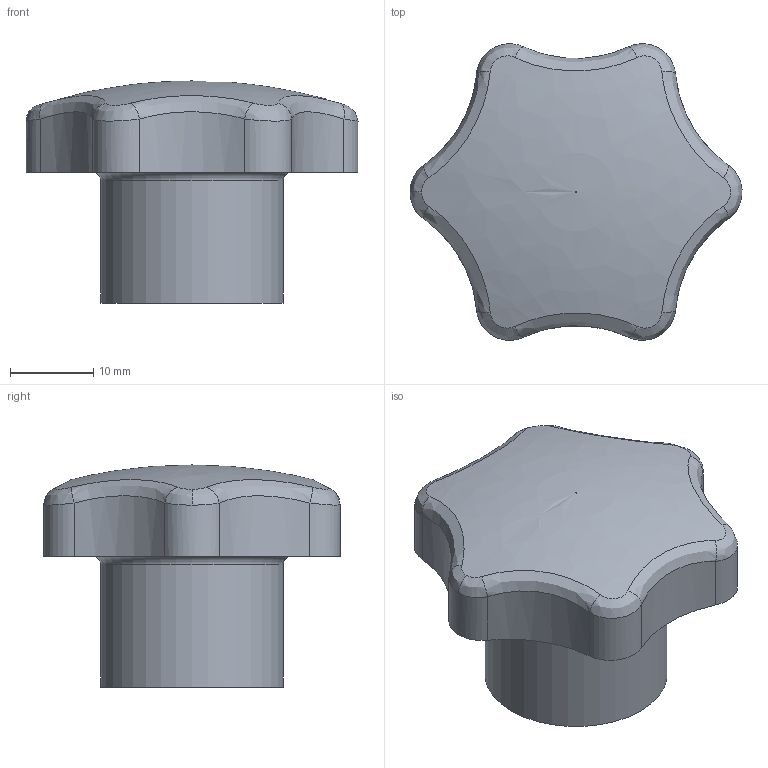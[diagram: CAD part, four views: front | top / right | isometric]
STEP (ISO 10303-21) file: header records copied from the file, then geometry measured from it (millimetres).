
FILE_DESCRIPTION( ('This file contains a STEP AP42 implementation' ,'as created by ZW3D STEP Interface translator.') ,'2;1' );
FILE_NAME( 'Rekojesc gwiazdowa typ C40.stp' ,'26 313.112856', (''), ('ZWCAD Software Co.'), 'Version 1.0', 'ZW3D to STEP translator', '' );
FILE_SCHEMA(('AP242_MANAGED_MODEL_BASED_3D_ENGINEERING_MIM_LF { 1 0 10303 442 1 1 4 }'));
Length unit declared in the file: millimetre
Products named in the file (1): 0
Bounding box: 39.99 x 35.71 x 26.75 mm (x, y, z)
Volume: 14556.9 mm3; surface area: 6718.1 mm2
Topology: 2 solids, 2 shells, 49 faces, 117 edges, 72 vertices
Faces by surface type: plane 16, cylinder 14, bspline 14, cone 4, torus 1
Full cylindrical faces by diameter (mm): 8 x1, 22 x1
Entity records: 2331 total; most frequent: CARTESIAN_POINT 1303, ORIENTED_EDGE 228, DIRECTION 156, EDGE_CURVE 114, VERTEX_POINT 72, AXIS2_PLACEMENT_3D 57, EDGE_LOOP 52, FACE_OUTER_BOUND 49
